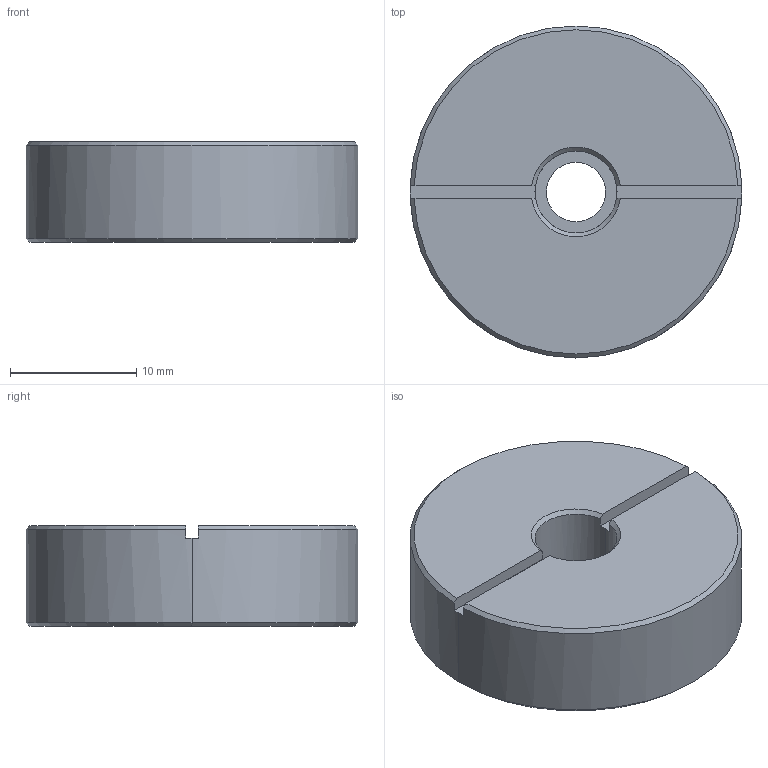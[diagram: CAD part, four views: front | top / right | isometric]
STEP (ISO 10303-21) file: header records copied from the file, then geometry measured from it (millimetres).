
FILE_DESCRIPTION (( 'STEP AP214' ), '1' );
FILE_NAME ('蛌諉殤.STEP', '2026-07-16T02:20:01', ( '' ), ( '' ), 'SwSTEP 2.0', 'SolidWorks 2024', '' );
FILE_SCHEMA (( 'AUTOMOTIVE_DESIGN' ));
Length unit declared in the file: millimetre
Products named in the file (1): 转接架
Bounding box: 26.29 x 26.29 x 8 mm (x, y, z)
Volume: 4053.8 mm3; surface area: 1897.7 mm2
Topology: 1 solids, 1 shells, 25 faces, 64 edges, 42 vertices
Faces by surface type: plane 11, cylinder 8, cone 6
Entity records: 807 total; most frequent: CARTESIAN_POINT 156, DIRECTION 138, ORIENTED_EDGE 128, EDGE_CURVE 64, AXIS2_PLACEMENT_3D 56, VERTEX_POINT 42, CIRCLE 30, EDGE_LOOP 28
